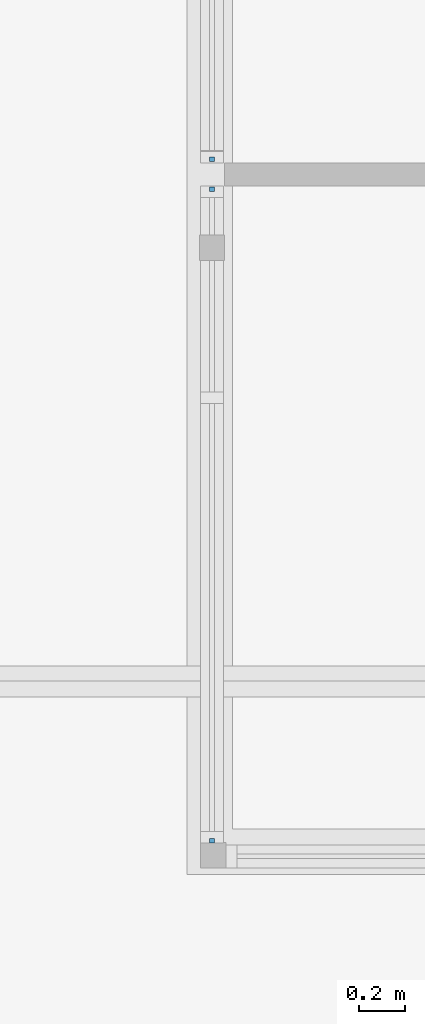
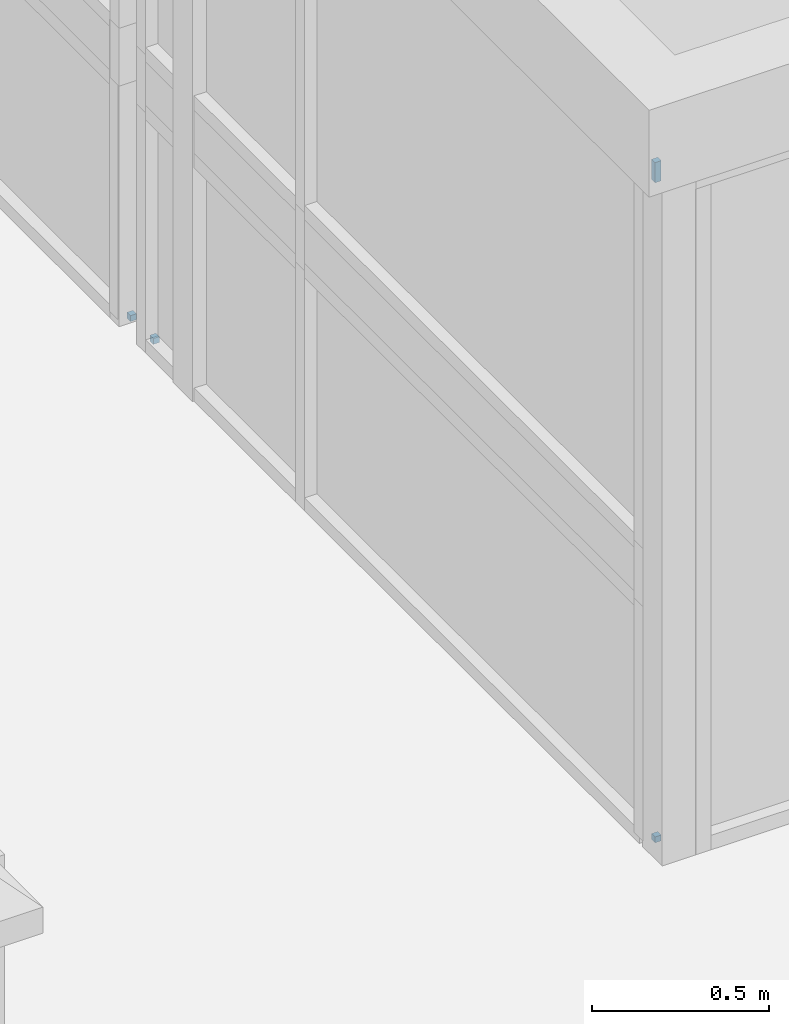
# One storey, part 113 of 153: 4 plates, 2 elements without a shape of their own.
"""IFC4 building model written with IfcOpenShell, lengths in metres."""

from ifc_helpers import new_model, entity, si_unit, converted_unit, derived_unit, direction, frame, origin, place, context, subcontext, project, spatial, indexed_curve, outline, extrude, source, transform, mapped, material, type_object, type_shapes, element, aggregate, save


model = new_model("IFC4")

# Units and contexts
model_context = context("Model", 3, precision=1e-05, world=origin(), true_north=direction((6.123031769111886e-17, 1.0)))
body_context = subcontext(model_context, "Body", "Model", "MODEL_VIEW")
ifc_project = project(units=[si_unit("LENGTHUNIT", "METRE"), si_unit("AREAUNIT", "SQUARE_METRE"), si_unit("VOLUMEUNIT", "CUBIC_METRE"), converted_unit("PLANEANGLEUNIT", "DEGREE", entity("IfcRatioMeasure", 0.017453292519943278), si_unit("PLANEANGLEUNIT", "RADIAN"), dimensions=[0, 0, 0, 0, 0, 0, 0]), si_unit("MASSUNIT", "GRAM", prefix="KILO"), derived_unit("MASSDENSITYUNIT", [(si_unit("MASSUNIT", "GRAM", prefix="KILO"), 1), (si_unit("LENGTHUNIT", "METRE"), -3)]), derived_unit("MOMENTOFINERTIAUNIT", [(si_unit("LENGTHUNIT", "METRE"), 4)]), si_unit("TIMEUNIT", "SECOND"), si_unit("FREQUENCYUNIT", "HERTZ"), si_unit("THERMODYNAMICTEMPERATUREUNIT", "DEGREE_CELSIUS"), derived_unit("THERMALTRANSMITTANCEUNIT", [(si_unit("MASSUNIT", "GRAM", prefix="KILO"), 1), (si_unit("THERMODYNAMICTEMPERATUREUNIT", "KELVIN"), -1), (si_unit("TIMEUNIT", "SECOND"), -3)]), derived_unit("VOLUMETRICFLOWRATEUNIT", [(si_unit("LENGTHUNIT", "METRE"), 3), (si_unit("TIMEUNIT", "SECOND"), -1)]), derived_unit("MASSFLOWRATEUNIT", [(si_unit("MASSUNIT", "GRAM", prefix="KILO"), 1), (si_unit("TIMEUNIT", "SECOND"), -1)]), derived_unit("ROTATIONALFREQUENCYUNIT", [(si_unit("TIMEUNIT", "SECOND"), -1)]), si_unit("ELECTRICCURRENTUNIT", "AMPERE"), si_unit("ELECTRICVOLTAGEUNIT", "VOLT"), si_unit("POWERUNIT", "WATT"), si_unit("FORCEUNIT", "NEWTON", prefix="KILO"), si_unit("ILLUMINANCEUNIT", "LUX"), si_unit("LUMINOUSFLUXUNIT", "LUMEN"), si_unit("LUMINOUSINTENSITYUNIT", "CANDELA"), derived_unit("USERDEFINED", [(si_unit("MASSUNIT", "GRAM", prefix="KILO"), -1), (si_unit("LENGTHUNIT", "METRE"), -2), (si_unit("TIMEUNIT", "SECOND"), 3), (si_unit("LUMINOUSFLUXUNIT", "LUMEN"), 1)]), derived_unit("SOUNDPOWERUNIT", [(si_unit("MASSUNIT", "GRAM", prefix="KILO"), 1), (si_unit("LENGTHUNIT", "METRE"), 2), (si_unit("TIMEUNIT", "SECOND"), -3)]), derived_unit("SOUNDPRESSUREUNIT", [(si_unit("MASSUNIT", "GRAM", prefix="KILO"), 1), (si_unit("LENGTHUNIT", "METRE"), -1), (si_unit("TIMEUNIT", "SECOND"), -2)]), derived_unit("LINEARVELOCITYUNIT", [(si_unit("LENGTHUNIT", "METRE"), 1), (si_unit("TIMEUNIT", "SECOND"), -1)]), si_unit("PRESSUREUNIT", "PASCAL"), derived_unit("USERDEFINED", [(si_unit("LENGTHUNIT", "METRE"), -2), (si_unit("MASSUNIT", "GRAM", prefix="KILO"), 1), (si_unit("TIMEUNIT", "SECOND"), -2)]), derived_unit("LINEARFORCEUNIT", [(si_unit("MASSUNIT", "GRAM", prefix="KILO"), 1), (si_unit("LENGTHUNIT", "METRE"), 1), (si_unit("TIMEUNIT", "SECOND"), -2), (si_unit("LENGTHUNIT", "METRE"), -1)]), derived_unit("PLANARFORCEUNIT", [(si_unit("MASSUNIT", "GRAM", prefix="KILO"), 1), (si_unit("LENGTHUNIT", "METRE"), 1), (si_unit("TIMEUNIT", "SECOND"), -2), (si_unit("LENGTHUNIT", "METRE"), -2)])], contexts=[model_context])

# Site, building, storey
site_placement = place(None, origin())
site = spatial("IfcSite", under=ifc_project, at=site_placement, Name="Superficie", CompositionType="ELEMENT")
building_placement = place(site_placement, origin())
building = spatial("IfcBuilding", under=site, at=building_placement, CompositionType="ELEMENT")
storey_placement = place(building_placement, frame((0.0, 0.0, 3.5999999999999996)))
storey = spatial("IfcBuildingStorey", under=building, at=storey_placement, Name="Nivel 1", CompositionType="ELEMENT", Elevation=3.5999999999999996)

# Curtain wall, plates
curtain_wall_type = type_object("IfcCurtainWallType", Name="Muro cortina:Muro cortina - simple", PredefinedType="NOTDEFINED")
curtain_wall_1_placement = place(storey_placement, frame((0.0, 0.0, -3.5999999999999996)))
curtain_wall_1 = element("IfcCurtainWall", 1, at=curtain_wall_1_placement, inside=storey, type_object=curtain_wall_type, Name="Muro cortina:Muro cortina - simple", ObjectType="Muro cortina:Muro cortina - simple", PredefinedType="NOTDEFINED")
ifc_material = material(Name="Cristal", Category="Vidrio")
plate_type_1 = type_object("IfcPlateType", Name="Panel de sistema:Acristalado", PredefinedType="CURTAIN_PANEL", material=ifc_material)
shared_shape_1 = source(origin(), body_context, "Body", "SweptSolid", [
    extrude(outline(indexed_curve([(-0.01, -0.009999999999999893), (0.01, -0.009999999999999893), (0.01, 0.009999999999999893), (-0.01, 0.009999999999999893), (-0.01, -0.009999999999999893)], self_intersect=False)), frame((0.0, 0.0, 0.0), z_axis=(0.0, 0.0, 1.0), x_axis=(0.0, 1.0, 0.0)), (0.0, 0.0, 1.0), 0.02000000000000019),
])
type_shapes(plate_type_1, [shared_shape_1])
plate_1_placement = place(curtain_wall_1_placement, frame((3.091799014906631, -0.8829168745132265, 3.5999999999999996), z_axis=(0.0, 0.0, 1.0), x_axis=(0.0, 1.0, 0.0)))
plate_1 = element("IfcPlate", 2, at=plate_1_placement, type_object=plate_type_1, material=ifc_material, Name="Panel de sistema:Acristalado", ObjectType="Panel de sistema:Acristalado", PredefinedType="CURTAIN_PANEL", context=body_context, shape_type="MappedRepresentation", body=[
    mapped(shared_shape_1, transform((0.0, 0.0, 0.0), scale=1.0)),
])
plate_2_placement = place(curtain_wall_1_placement, frame((3.091799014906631, 1.957083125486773, 3.5999999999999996), z_axis=(0.0, 0.0, 1.0), x_axis=(0.0, 1.0, 0.0)))
plate_2 = element("IfcPlate", 3, at=plate_2_placement, type_object=plate_type_1, material=ifc_material, Name="Panel de sistema:Acristalado", ObjectType="Panel de sistema:Acristalado", PredefinedType="CURTAIN_PANEL", context=body_context, shape_type="MappedRepresentation", body=[
    mapped(shared_shape_1, transform((0.0, 0.0, 0.0), scale=1.0)),
])

# Curtain wall, plate
curtain_wall_2_placement = place(storey_placement, frame((0.0, 0.0, -3.5999999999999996)))
curtain_wall_2 = element("IfcCurtainWall", 4, at=curtain_wall_2_placement, inside=storey, type_object=curtain_wall_type, Name="Muro cortina:Muro cortina - simple", ObjectType="Muro cortina:Muro cortina - simple", PredefinedType="NOTDEFINED")
plate_3_placement = place(curtain_wall_2_placement, frame((3.091799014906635, 2.087083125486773, 3.5999999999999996), z_axis=(0.0, 0.0, 1.0), x_axis=(0.0, 1.0, 0.0)))
plate_3 = element("IfcPlate", 5, at=plate_3_placement, type_object=plate_type_1, material=ifc_material, Name="Panel de sistema:Acristalado", ObjectType="Panel de sistema:Acristalado", PredefinedType="CURTAIN_PANEL", context=body_context, shape_type="MappedRepresentation", body=[
    mapped(shared_shape_1, transform((0.0, 0.0, 0.0), scale=1.0)),
])
aggregate(curtain_wall_2, [plate_3])

# Plate
plate_type_2 = type_object("IfcPlateType", Name="Panel de sistema:Acristalado", PredefinedType="CURTAIN_PANEL", material=ifc_material)
shared_shape_2 = source(origin(), body_context, "Body", "SweptSolid", [
    extrude(outline(indexed_curve([(-0.01, -0.009999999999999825), (0.01, -0.009999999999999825), (0.01, 0.009999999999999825), (-0.01, 0.009999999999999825), (-0.01, -0.009999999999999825)], self_intersect=False)), frame((0.0, 0.0, 0.0), z_axis=(0.0, 0.0, 1.0), x_axis=(0.0, 1.0, 0.0)), (0.0, 0.0, 1.0), 0.07000000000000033),
])
type_shapes(plate_type_2, [shared_shape_2])
plate_4_placement = place(curtain_wall_1_placement, frame((3.091799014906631, -0.8829168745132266, 5.879999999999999), z_axis=(0.0, 0.0, 1.0), x_axis=(0.0, 1.0, 0.0)))
plate_4 = element("IfcPlate", 6, at=plate_4_placement, type_object=plate_type_2, material=ifc_material, Name="Panel de sistema:Acristalado", ObjectType="Panel de sistema:Acristalado", PredefinedType="CURTAIN_PANEL", context=body_context, shape_type="MappedRepresentation", body=[
    mapped(shared_shape_2, transform((0.0, 0.0, 0.0), scale=1.0)),
])

aggregate(curtain_wall_1, [plate_1, plate_2, plate_4])

save(model, "model.ifc")
